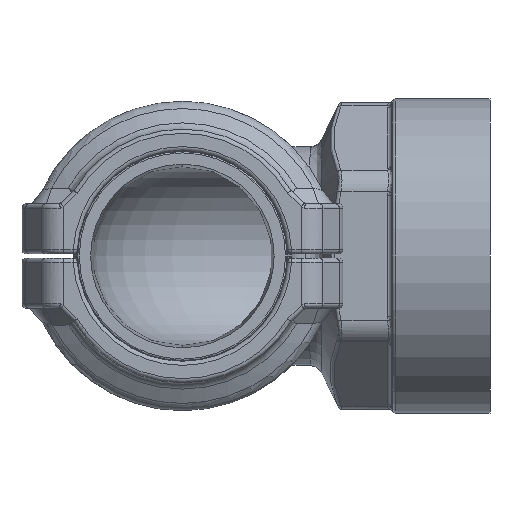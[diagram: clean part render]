
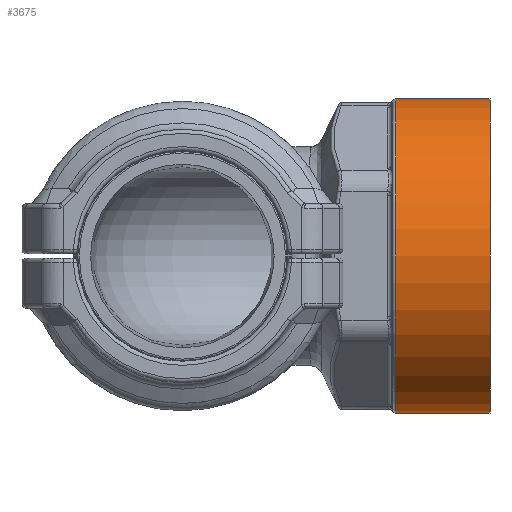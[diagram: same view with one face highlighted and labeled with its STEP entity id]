
A CAD part, front view. The second image highlights one B-rep face of the part: STEP entity #3675.
In plain terms, the highlighted cylindrical face has radius 37.724 mm (diameter 75.448 mm), a partial arc.
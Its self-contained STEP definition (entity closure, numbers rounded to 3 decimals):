
#1238=CARTESIAN_POINT('',(73.837,0.,0.));
#1239=DIRECTION('',(1.,0.,0.));
#1240=DIRECTION('',(0.,0.,1.));
#1241=AXIS2_PLACEMENT_3D('',#1238,#1239,#1240);
#1254=DIRECTION('',(-1.,0.,0.));
#1255=VECTOR('',#1254,22.633);
#1256=CARTESIAN_POINT('',(73.837,0.,37.724));
#1257=LINE('',#1256,#1255);
#1261=DIRECTION('',(-1.,0.,0.));
#1262=VECTOR('',#1261,22.633);
#1263=CARTESIAN_POINT('',(73.837,0.,-37.724));
#1264=LINE('',#1263,#1262);
#1268=CARTESIAN_POINT('',(51.204,0.,0.));
#1269=DIRECTION('',(-1.,0.,0.));
#1270=DIRECTION('',(0.,0.,-1.));
#1271=AXIS2_PLACEMENT_3D('',#1268,#1269,#1270);
#2237=CARTESIAN_POINT('',(73.837,0.,-37.724));
#2238=CARTESIAN_POINT('',(51.204,0.,-37.724));
#2239=VERTEX_POINT('',#2237);
#2240=VERTEX_POINT('',#2238);
#2241=CARTESIAN_POINT('',(73.837,0.,37.724));
#2242=CARTESIAN_POINT('',(51.204,0.,37.724));
#2243=VERTEX_POINT('',#2241);
#2244=VERTEX_POINT('',#2242);
#3661=CARTESIAN_POINT('',(79.531,0.,0.));
#3662=DIRECTION('',(-1.,0.,0.));
#3663=DIRECTION('',(0.,0.,1.));
#3664=AXIS2_PLACEMENT_3D('',#3661,#3662,#3663);
#3665=CYLINDRICAL_SURFACE('',#3664,37.724);
#3667=ORIENTED_EDGE('',*,*,#3666,.T.);
#3669=ORIENTED_EDGE('',*,*,#3668,.F.);
#3670=ORIENTED_EDGE('',*,*,#3650,.T.);
#3672=ORIENTED_EDGE('',*,*,#3671,.T.);
#3673=EDGE_LOOP('',(#3667,#3669,#3670,#3672));
#3674=FACE_OUTER_BOUND('',#3673,.F.);
#1242=CIRCLE('',#1241,37.724);
#1272=CIRCLE('',#1271,37.724);
#3650=EDGE_CURVE('',#2243,#2239,#1242,.T.);
#3666=EDGE_CURVE('',#2240,#2244,#1272,.T.);
#3668=EDGE_CURVE('',#2243,#2244,#1257,.T.);
#3671=EDGE_CURVE('',#2239,#2240,#1264,.T.);
#3675=ADVANCED_FACE('',(#3674),#3665,.T.);
